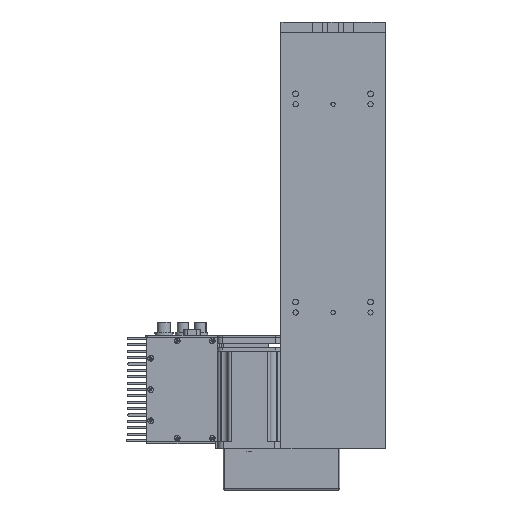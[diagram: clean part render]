
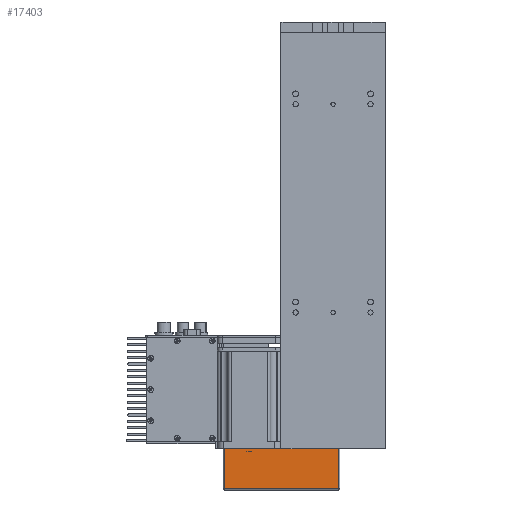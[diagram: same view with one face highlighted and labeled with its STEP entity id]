
A CAD part, front view. The second image highlights one B-rep face of the part: STEP entity #17403.
In plain terms, the highlighted planar face has unit normal (0, -1, 0).
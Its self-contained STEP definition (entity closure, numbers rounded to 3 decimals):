
#17037 = VERTEX_POINT ( 'NONE', #34147 ) ;
#17055 = VERTEX_POINT ( 'NONE', #34116 ) ;
#17072 = VERTEX_POINT ( 'NONE', #34159 ) ;
#17094 = EDGE_CURVE ( 'NONE', #17037, #17055, #34234, .T. ) ;
#17112 = VERTEX_POINT ( 'NONE', #34270 ) ;
#17126 = EDGE_CURVE ( 'NONE', #17072, #17112, #34317, .T. ) ;
#17371 = ORIENTED_EDGE ( 'NONE', *, *, #17380, .T. ) ;
#17380 = EDGE_CURVE ( 'NONE', #17037, #17112, #34733, .T. ) ;
#17387 = EDGE_LOOP ( 'NONE', ( #17389, #17371, #17404, #17410 ) ) ;
#17389 = ORIENTED_EDGE ( 'NONE', *, *, #17094, .F. ) ;
#17403 = ADVANCED_FACE ( 'NONE', ( #34824 ), #34744, .F. ) ;
#17404 = ORIENTED_EDGE ( 'NONE', *, *, #17126, .F. ) ;
#17410 = ORIENTED_EDGE ( 'NONE', *, *, #17429, .F. ) ;
#17429 = EDGE_CURVE ( 'NONE', #17055, #17072, #34849, .T. ) ;
#34116 = CARTESIAN_POINT ( 'NONE',  ( -49., -25., 38.5 ) ) ;
#34147 = CARTESIAN_POINT ( 'NONE',  ( -49., -25., 0. ) ) ;
#34159 = CARTESIAN_POINT ( 'NONE',  ( 61., -25., 38.5 ) ) ;
#34230 = DIRECTION ( 'NONE',  ( 0., 0., 1. ) ) ;
#34231 = VECTOR ( 'NONE', #34230, 1000. ) ;
#34234 = LINE ( 'NONE', #34235, #34231 ) ;
#34235 = CARTESIAN_POINT ( 'NONE',  ( -49., -25., 39.5 ) ) ;
#34270 = CARTESIAN_POINT ( 'NONE',  ( 61., -25., 0. ) ) ;
#34314 = DIRECTION ( 'NONE',  ( 0., 0., -1. ) ) ;
#34315 = VECTOR ( 'NONE', #34314, 1000. ) ;
#34316 = CARTESIAN_POINT ( 'NONE',  ( 61., -25., 39.5 ) ) ;
#34317 = LINE ( 'NONE', #34316, #34315 ) ;
#34733 = LINE ( 'NONE', #34756, #34755 ) ;
#34744 = PLANE ( 'NONE',  #34792 ) ;
#34754 = DIRECTION ( 'NONE',  ( 1., 0., 0. ) ) ;
#34755 = VECTOR ( 'NONE', #34754, 1000. ) ;
#34756 = CARTESIAN_POINT ( 'NONE',  ( -50., -25., 0. ) ) ;
#34791 = CARTESIAN_POINT ( 'NONE',  ( -50., -25., 39.5 ) ) ;
#34792 = AXIS2_PLACEMENT_3D ( 'NONE', #34791, #34819, #34818 ) ;
#34818 = DIRECTION ( 'NONE',  ( 0., 0., 1. ) ) ;
#34819 = DIRECTION ( 'NONE',  ( 0., 1., 0. ) ) ;
#34824 = FACE_OUTER_BOUND ( 'NONE', #17387, .T. ) ;
#34846 = DIRECTION ( 'NONE',  ( 1., 0., 0. ) ) ;
#34847 = VECTOR ( 'NONE', #34846, 1000. ) ;
#34848 = CARTESIAN_POINT ( 'NONE',  ( -50., -25., 38.5 ) ) ;
#34849 = LINE ( 'NONE', #34848, #34847 ) ;
